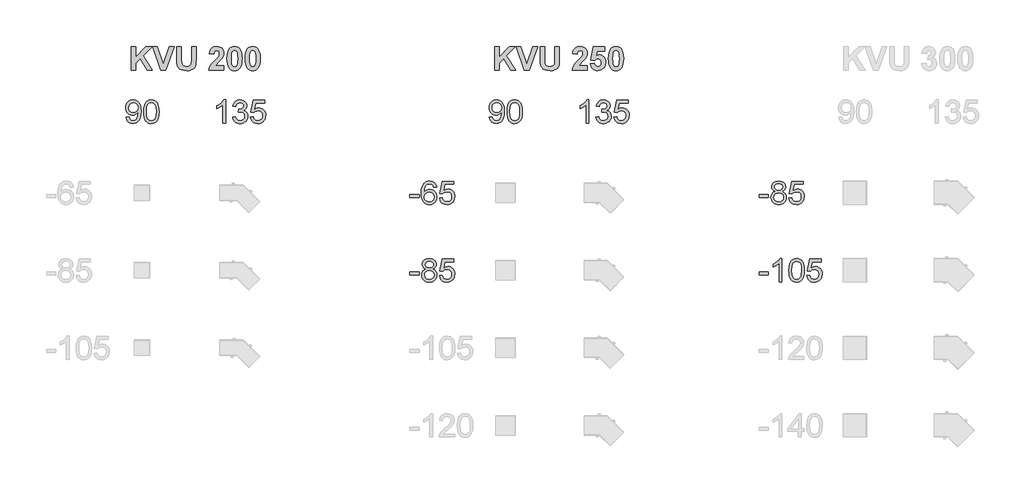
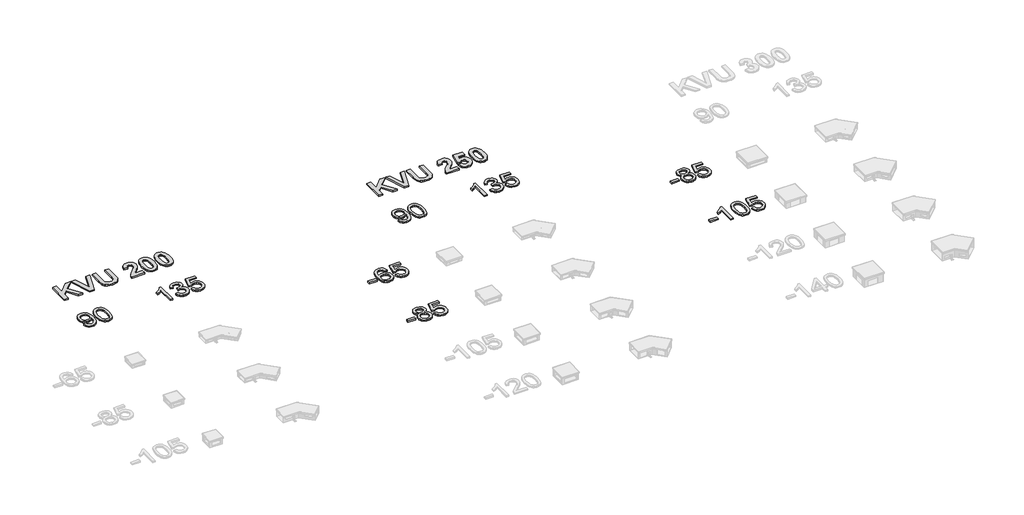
# One storey, part 4 of 6: 10 proxies.
"""IFC4 building model written with IfcOpenShell, lengths in millimetres."""

from ifc_helpers import new_model, si_unit, origin, origin_with_axes, place, context, project, spatial, polyline, outline, extrude, element, save

model = new_model("IFC4")

# Units and contexts
model_context = context("Model", 3, world=origin())
ifc_project = project(units=[si_unit("LENGTHUNIT", "METRE", prefix="MILLI")], contexts=[model_context])

# Site, building, storey
site = spatial("IfcSite", under=ifc_project)
building = spatial("IfcBuilding", under=site)
storey = spatial("IfcBuildingStorey", under=building, Name="Этаж 01", Elevation=0.0)

# Proxies
placement = place(None, origin())
element("IfcBuildingElementProxy", 1, Name="300", ObjectType="300", at=placement, inside=storey, context=model_context, shape_type="SweptSolid", body=[
    extrude(outline(polyline([(1091.5266107, 2189.3511025), (1129.197727, 2194.0599921), (1135.6356619, 2172.6768511), (1146.1202987, 2158.1179211), (1160.3941202, 2149.7578028), (1178.1996087, 2146.9710967), (1194.1748844, 2148.7645214), (1208.6970261, 2154.1447956), (1220.7635556, 2162.523308), (1229.3719943, 2173.3114475), (1241.6960411, 2206.0529451), (1247.1406946, 2249.7573261), (1246.9199654, 2257.114966), (1233.8693516, 2241.1856756), (1216.79043, 2228.5673232), (1196.9156052, 2220.3451606), (1175.477282, 2217.6044398), (1157.5821222, 2219.2783028), (1141.1263007, 2224.2998921), (1126.1098175, 2232.6692075), (1112.5326726, 2244.386249), (1101.2823813, 2258.8394129), (1093.246459, 2275.4170953), (1088.4249056, 2294.1192962), (1086.8177211, 2314.9460157), (1088.5030805, 2336.4671124), (1093.5591587, 2355.7809171), (1101.9859556, 2372.8874299), (1113.7834714, 2387.7866507), (1128.1193729, 2399.8577787), (1144.1613271, 2408.4800129), (1161.9093341, 2413.6533535), (1181.3633939, 2415.3778004), (1209.4603813, 2411.441463), (1235.037377, 2399.632451), (1256.429715, 2380.5393754), (1271.9727293, 2354.7508476), (1281.4364936, 2319.1030822), (1284.5910817, 2270.4322943), (1281.4456907, 2218.8276474), (1272.0095175, 2178.9400421), (1256.3653357, 2148.9668565), (1234.5959186, 2127.1054689), (1207.6393654, 2113.7513525), (1176.4337752, 2109.2999804), (1144.2257065, 2114.5514959), (1118.5291491, 2130.3060423), (1100.5581136, 2155.5703383), (1091.5266107, 2189.3511025)]), holes=[polyline([(1246.9199654, 2315.8289325), (1242.8548694, 2341.3599429), (1230.6595812, 2361.0048415), (1211.7320526, 2373.5312234), (1187.470235, 2377.7066841), (1162.3071065, 2373.2093267), (1142.1471732, 2359.7172545), (1128.9034214, 2339.0698775), (1124.4888374, 2313.1066057), (1128.6642981, 2289.8288725), (1141.19068, 2271.3519992), (1160.8539727, 2259.2946669), (1186.4401654, 2255.2755561), (1210.508845, 2259.2946669), (1229.8870291, 2271.3519992), (1242.6617313, 2290.5094541), (1246.9199654, 2315.8289325)])]), origin_with_axes(), (0.0, 0.0, 1.0), 20.0),
    extrude(outline(polyline([(1317.5533085, 2262.265314), (1320.3216205, 2310.5038406), (1328.6265566, 2348.9751002), (1342.3853432, 2378.2677041), (1361.5152069, 2398.9702634), (1386.1541036, 2411.2759161), (1416.4399888, 2415.3778004), (1439.6533427, 2412.9497792), (1460.4386754, 2405.6657157), (1477.8210997, 2393.8107184), (1490.8257282, 2377.6698959), (1500.6481775, 2357.3812038), (1508.484064, 2333.082598), (1513.6160178, 2302.2264957), (1515.3266691, 2262.265314), (1512.5859482, 2214.3026988), (1504.3637857, 2175.9234097), (1490.6877725, 2146.6032147), (1471.5854999, 2125.817882), (1446.891421, 2113.4294558), (1416.4399888, 2109.2999804), (1395.6914443, 2111.0934051), (1377.2973445, 2116.4736793), (1361.2576895, 2125.4408029), (1347.5724793, 2137.994776), (1334.4390921, 2160.6884966), (1325.0581012, 2188.9648264), (1319.4295067, 2222.8237656), (1317.5533085, 2262.265314)]), holes=[polyline([(1355.2244248, 2262.3388904), (1359.6390087, 2203.082298), (1365.1572387, 2182.8142993), (1372.8827606, 2168.786499), (1392.6012355, 2152.4249473), (1416.4399888, 2146.9710967), (1440.2787421, 2152.4433414), (1459.997217, 2168.8600754), (1467.7227389, 2182.9108683), (1473.2409689, 2203.1742685), (1477.6555528, 2262.3388904), (1473.3881217, 2320.2619105), (1468.0538327, 2340.4632306), (1460.5858282, 2354.824424), (1440.9041415, 2371.986119), (1415.9985304, 2377.7066841), (1392.4172945, 2372.6667007), (1373.4713718, 2357.5467507), (1365.4883325, 2341.9117659), (1359.7861615, 2320.8321276), (1355.2244248, 2262.3388904)])]), origin_with_axes(), (0.0, 0.0, 1.0), 20.0),
])
element("IfcBuildingElementProxy", 2, Name="300", ObjectType="300", at=placement, inside=storey, context=model_context, shape_type="SweptSolid", body=[
    extrude(outline(polyline([(2372.7166136, 2114.0088699), (2335.0454973, 2114.0088699), (2335.0454973, 2348.8647356), (2299.3609437, 2323.4440898), (2259.7032647, 2304.4245906), (2259.7032647, 2340.0355677), (2289.2901741, 2356.130405), (2314.9223521, 2375.2786629), (2335.1282707, 2395.6409313), (2348.4364019, 2415.3778004), (2372.7166136, 2415.3778004), (2372.7166136, 2114.0088699)])), origin_with_axes(), (0.0, 0.0, 1.0), 20.0),
    extrude(outline(polyline([(2462.1855148, 2194.0599921), (2499.8566311, 2198.7688816), (2508.2903259, 2175.0956752), (2520.6419638, 2159.1112025), (2537.5185504, 2150.0061231), (2559.5270907, 2146.9710967), (2585.3524068, 2151.1465573), (2605.2916109, 2163.6729393), (2618.0387221, 2182.3613446), (2622.2877591, 2205.0228755), (2618.0755103, 2226.5347752), (2605.4387637, 2243.9815788), (2586.3089, 2255.5422705), (2562.6172995, 2259.3958344), (2536.2033722, 2255.2755561), (2540.397227, 2292.9466724), (2546.4304917, 2292.505214), (2569.0000521, 2295.2091466), (2589.1783795, 2303.3209446), (2603.4154128, 2317.042943), (2608.1610905, 2336.577477), (2604.7213938, 2352.8470582), (2594.4023039, 2366.0448248), (2578.6569545, 2374.7912192), (2558.9384795, 2377.7066841), (2539.1832164, 2374.7636281), (2523.0331968, 2365.9344602), (2511.2425789, 2351.2191804), (2504.5655207, 2330.6177887), (2466.8944044, 2335.3266782), (2477.9860465, 2369.1534277), (2497.7229155, 2394.4085266), (2524.725454, 2410.1354819), (2557.6141044, 2415.3778004), (2581.2965078, 2412.7934293), (2603.0475308, 2405.0403163), (2621.3864482, 2392.80824), (2634.8325351, 2376.7869791), (2643.0822889, 2358.3285), (2645.8322068, 2338.784769), (2643.2202446, 2320.5746102), (2635.3843581, 2304.0567086), (2622.4349119, 2289.9852223), (2604.4822705, 2279.1143093), (2628.0635064, 2269.5861657), (2645.5379012, 2253.3625697), (2656.3536319, 2231.3264382), (2659.9588754, 2204.3606879), (2658.1562536, 2185.2492183), (2652.7483883, 2167.6460648), (2643.7352794, 2151.5512275), (2631.116927, 2136.9647064), (2615.7440581, 2124.8613888), (2598.4673999, 2116.2161619), (2579.2869524, 2111.0290257), (2558.2027156, 2109.2999804), (2539.1464282, 2110.7761069), (2521.782398, 2115.2044864), (2506.110625, 2122.5851189), (2492.1311092, 2132.9180045), (2480.4094691, 2145.5961377), (2471.5113234, 2160.0125134), (2465.4366719, 2176.1671315), (2462.1855148, 2194.0599921)])), origin_with_axes(), (0.0, 0.0, 1.0), 20.0),
    extrude(outline(polyline([(2692.9211022, 2194.0599921), (2730.5922185, 2198.7688816), (2737.5084, 2176.1533359), (2749.5749294, 2159.9573311), (2766.7366245, 2150.2176553), (2788.9383029, 2146.9710967), (2815.9408414, 2151.4868482), (2836.1743511, 2165.0341026), (2848.8110976, 2186.0493616), (2853.0233465, 2212.9691266), (2849.0778121, 2238.3161961), (2837.2412089, 2257.7035772), (2817.4215664, 2270.00923), (2789.5269141, 2274.1111142), (2771.252376, 2272.4740393), (2756.4543228, 2267.5628147), (2735.301108, 2250.5666665), (2697.6299917, 2255.2755561), (2730.5922185, 2410.6689108), (2876.5677942, 2410.6689108), (2876.5677942, 2372.9977945), (2761.0528477, 2372.9977945), (2744.9396163, 2290.0036164), (2771.8501843, 2306.337577), (2800.0483392, 2311.7822305), (2818.3941544, 2310.0945719), (2835.2454491, 2305.0315959), (2850.6022231, 2296.5933026), (2864.4644765, 2284.7796921), (2875.9400955, 2270.3127326), (2884.1369662, 2253.9143927), (2889.0550887, 2235.5846723), (2890.6944628, 2215.3235714), (2884.7899568, 2177.6524551), (2877.4093242, 2160.858642), (2867.0764387, 2145.4259923), (2851.4230598, 2129.6208621), (2833.1577187, 2118.3314834), (2812.2804155, 2111.5578561), (2788.7911501, 2109.2999804), (2751.7914185, 2115.1033188), (2736.1127477, 2122.3574919), (2722.3148736, 2132.5133343), (2710.8346561, 2145.0650081), (2702.108955, 2159.5066757), (2692.9211022, 2194.0599921)])), origin_with_axes(), (0.0, 0.0, 1.0), 20.0),
])
element("IfcBuildingElementProxy", 3, Name="300", ObjectType="300", at=placement, inside=storey, context=model_context, shape_type="SweptSolid", body=[
    extrude(outline(polyline([(4746.6903592, 1157.6054217), (4746.6903592, 1195.276538), (4864.4125977, 1195.276538), (4864.4125977, 1157.6054217), (4746.6903592, 1157.6054217)])), origin_with_axes(), (0.0, 0.0, 1.0), 20.0),
    extrude(outline(polyline([(5090.4392955, 1289.4543288), (5052.7681792, 1284.7454392), (5046.6981263, 1303.4154505), (5038.4943578, 1316.1625616), (5021.4062391, 1327.9163914), (5000.7496651, 1331.8343346), (4983.2384821, 1329.5534662), (4966.7573687, 1322.7108611), (4952.603109, 1308.299084), (4941.0424173, 1288.4610474), (4933.2341219, 1260.4008482), (4930.3370512, 1221.3225833), (4945.4478042, 1238.9533279), (4963.5567954, 1251.3785423), (4983.6523494, 1258.7453792), (5004.7227906, 1261.2009915), (5022.8225848, 1259.5225299), (5039.5244274, 1254.4871451), (5054.8283184, 1246.0948371), (5068.7342578, 1234.3456059), (5080.290351, 1219.9384273), (5088.5447032, 1203.572277), (5093.4973146, 1185.2471551), (5095.148185, 1164.9630616), (5092.0395822, 1137.9881143), (5082.7137736, 1112.9813357), (5067.9433115, 1091.7729387), (5048.5007481, 1076.1931362), (5025.2690001, 1066.6190072), (4999.1309843, 1063.4276309), (4976.6740878, 1065.5429524), (4956.3922935, 1071.8889168), (4938.2856016, 1082.4655242), (4922.3540119, 1097.2727745), (4909.3654782, 1116.9360671), (4900.0879542, 1142.0808015), (4894.5214397, 1172.7069776), (4892.6659349, 1208.8145954), (4894.7260741, 1249.2954105), (4900.9064916, 1283.8441283), (4911.2071875, 1312.460749), (4925.6281617, 1335.1452726), (4941.2585479, 1350.1778506), (4959.3813347, 1360.9154063), (4979.996522, 1367.3579398), (5003.1041099, 1369.5054509), (5036.1583071, 1364.1895561), (5062.6274167, 1348.2418716), (5081.1686692, 1322.9131962), (5090.4392955, 1289.4543288)]), holes=[polyline([(4930.3370512, 1165.5516728), (4932.516752, 1148.8590273), (4939.0558545, 1132.9205398), (4949.2093976, 1119.2169355), (4962.2324202, 1109.2289393), (4977.9501784, 1103.1312953), (4996.1879283, 1101.0987472), (5021.0475542, 1105.3109961), (5040.5912852, 1117.9477426), (5053.2556228, 1137.8133704), (5057.4770687, 1163.7122628), (5053.3108051, 1188.5718886), (5040.8120144, 1207.5270084), (5020.9371896, 1219.5291585), (4994.642824, 1223.5298752), (4969.8199863, 1219.5291585), (4949.0622448, 1207.5270084), (4935.0183496, 1189.0317411), (4930.3370512, 1165.5516728)])]), origin_with_axes(), (0.0, 0.0, 1.0), 20.0),
    extrude(outline(polyline([(5128.1104118, 1148.1876426), (5165.7815281, 1152.8965322), (5172.6977096, 1130.2809865), (5184.7642391, 1114.0849817), (5201.9259341, 1104.3453059), (5224.1276126, 1101.0987472), (5251.130151, 1105.6144987), (5271.3636607, 1119.1617532), (5284.0004073, 1140.1770122), (5288.2126561, 1167.0967772), (5284.2671217, 1192.4438466), (5272.4305185, 1211.8312278), (5252.610876, 1224.1368805), (5224.7162237, 1228.2387648), (5206.4416856, 1226.6016899), (5191.6436324, 1221.6904653), (5170.4904177, 1204.6943171), (5132.8193014, 1209.4032066), (5165.7815281, 1364.7965614), (5311.7571038, 1364.7965614), (5311.7571038, 1327.1254451), (5196.2421573, 1327.1254451), (5180.1289259, 1244.131267), (5207.0394939, 1260.4652276), (5235.2376488, 1265.9098811), (5253.5834641, 1264.2222224), (5270.4347587, 1259.1592465), (5285.7915327, 1250.7209532), (5299.6537862, 1238.9073426), (5311.1294052, 1224.4403832), (5319.3262759, 1208.0420432), (5324.2443983, 1189.7123228), (5325.8837724, 1169.4512219), (5319.9792664, 1131.7801056), (5312.5986339, 1114.9862926), (5302.2657483, 1099.5536429), (5286.6123694, 1083.7485126), (5268.3470284, 1072.4591339), (5247.4697252, 1065.6855067), (5223.9804598, 1063.4276309), (5186.9807281, 1069.2309694), (5171.3020573, 1076.4851425), (5157.5041832, 1086.6409848), (5146.0239657, 1099.1926587), (5137.2982646, 1113.6343262), (5128.1104118, 1148.1876426)])), origin_with_axes(), (0.0, 0.0, 1.0), 20.0),
])
element("IfcBuildingElementProxy", 4, Name="300", ObjectType="300", at=placement, inside=storey, context=model_context, shape_type="SweptSolid", body=[
    extrude(outline(polyline([(5771.5266107, 2189.3511025), (5809.197727, 2194.0599921), (5815.6356619, 2172.6768511), (5826.1202987, 2158.1179211), (5840.3941202, 2149.7578028), (5858.1996087, 2146.9710967), (5874.1748844, 2148.7645214), (5888.6970261, 2154.1447956), (5900.7635556, 2162.523308), (5909.3719943, 2173.3114475), (5921.6960411, 2206.0529451), (5927.1406946, 2249.7573261), (5926.9199654, 2257.114966), (5913.8693516, 2241.1856756), (5896.79043, 2228.5673232), (5876.9156052, 2220.3451606), (5855.477282, 2217.6044398), (5837.5821222, 2219.2783028), (5821.1263007, 2224.2998921), (5806.1098175, 2232.6692075), (5792.5326726, 2244.386249), (5781.2823813, 2258.8394129), (5773.246459, 2275.4170953), (5768.4249056, 2294.1192962), (5766.8177211, 2314.9460157), (5768.5030805, 2336.4671124), (5773.5591587, 2355.7809171), (5781.9859556, 2372.8874299), (5793.7834714, 2387.7866507), (5808.1193729, 2399.8577787), (5824.1613271, 2408.4800129), (5841.9093341, 2413.6533535), (5861.3633939, 2415.3778004), (5889.4603813, 2411.441463), (5915.037377, 2399.632451), (5936.429715, 2380.5393754), (5951.9727293, 2354.7508476), (5961.4364936, 2319.1030822), (5964.5910817, 2270.4322943), (5961.4456907, 2218.8276474), (5952.0095175, 2178.9400421), (5936.3653357, 2148.9668565), (5914.5959186, 2127.1054689), (5887.6393654, 2113.7513525), (5856.4337752, 2109.2999804), (5824.2257065, 2114.5514959), (5798.5291491, 2130.3060423), (5780.5581136, 2155.5703383), (5771.5266107, 2189.3511025)]), holes=[polyline([(5926.9199654, 2315.8289325), (5922.8548694, 2341.3599429), (5910.6595812, 2361.0048415), (5891.7320526, 2373.5312234), (5867.470235, 2377.7066841), (5842.3071065, 2373.2093267), (5822.1471732, 2359.7172545), (5808.9034214, 2339.0698775), (5804.4888374, 2313.1066057), (5808.6642981, 2289.8288725), (5821.19068, 2271.3519992), (5840.8539727, 2259.2946669), (5866.4401654, 2255.2755561), (5890.508845, 2259.2946669), (5909.8870291, 2271.3519992), (5922.6617313, 2290.5094541), (5926.9199654, 2315.8289325)])]), origin_with_axes(), (0.0, 0.0, 1.0), 20.0),
    extrude(outline(polyline([(5997.5533085, 2262.265314), (6000.3216205, 2310.5038406), (6008.6265566, 2348.9751002), (6022.3853432, 2378.2677041), (6041.5152069, 2398.9702634), (6066.1541036, 2411.2759161), (6096.4399888, 2415.3778004), (6119.6533427, 2412.9497792), (6140.4386754, 2405.6657157), (6157.8210997, 2393.8107184), (6170.8257282, 2377.6698959), (6180.6481775, 2357.3812038), (6188.484064, 2333.082598), (6193.6160178, 2302.2264957), (6195.3266691, 2262.265314), (6192.5859482, 2214.3026988), (6184.3637857, 2175.9234097), (6170.6877725, 2146.6032147), (6151.5854999, 2125.817882), (6126.891421, 2113.4294558), (6096.4399888, 2109.2999804), (6075.6914443, 2111.0934051), (6057.2973445, 2116.4736793), (6041.2576895, 2125.4408029), (6027.5724793, 2137.994776), (6014.4390921, 2160.6884966), (6005.0581012, 2188.9648264), (5999.4295067, 2222.8237656), (5997.5533085, 2262.265314)]), holes=[polyline([(6035.2244248, 2262.3388904), (6039.6390087, 2203.082298), (6045.1572387, 2182.8142993), (6052.8827606, 2168.786499), (6072.6012355, 2152.4249473), (6096.4399888, 2146.9710967), (6120.2787421, 2152.4433414), (6139.997217, 2168.8600754), (6147.7227389, 2182.9108683), (6153.2409689, 2203.1742685), (6157.6555528, 2262.3388904), (6153.3881217, 2320.2619105), (6148.0538327, 2340.4632306), (6140.5858282, 2354.824424), (6120.9041415, 2371.986119), (6095.9985304, 2377.7066841), (6072.4172945, 2372.6667007), (6053.4713718, 2357.5467507), (6045.4883325, 2341.9117659), (6039.7861615, 2320.8321276), (6035.2244248, 2262.3388904)])]), origin_with_axes(), (0.0, 0.0, 1.0), 20.0),
])
element("IfcBuildingElementProxy", 5, Name="300", ObjectType="300", at=placement, inside=storey, context=model_context, shape_type="SweptSolid", body=[
    extrude(outline(polyline([(7052.7166136, 2114.0088699), (7015.0454973, 2114.0088699), (7015.0454973, 2348.8647356), (6979.3609437, 2323.4440898), (6939.7032647, 2304.4245906), (6939.7032647, 2340.0355677), (6969.2901741, 2356.130405), (6994.9223521, 2375.2786629), (7015.1282707, 2395.6409313), (7028.4364019, 2415.3778004), (7052.7166136, 2415.3778004), (7052.7166136, 2114.0088699)])), origin_with_axes(), (0.0, 0.0, 1.0), 20.0),
    extrude(outline(polyline([(7142.1855148, 2194.0599921), (7179.8566311, 2198.7688816), (7188.2903259, 2175.0956752), (7200.6419638, 2159.1112025), (7217.5185504, 2150.0061231), (7239.5270907, 2146.9710967), (7265.3524068, 2151.1465573), (7285.2916109, 2163.6729393), (7298.0387221, 2182.3613446), (7302.2877591, 2205.0228755), (7298.0755103, 2226.5347752), (7285.4387637, 2243.9815788), (7266.3089, 2255.5422705), (7242.6172995, 2259.3958344), (7216.2033722, 2255.2755561), (7220.397227, 2292.9466724), (7226.4304917, 2292.505214), (7249.0000521, 2295.2091466), (7269.1783795, 2303.3209446), (7283.4154128, 2317.042943), (7288.1610905, 2336.577477), (7284.7213938, 2352.8470582), (7274.4023039, 2366.0448248), (7258.6569545, 2374.7912192), (7238.9384795, 2377.7066841), (7219.1832164, 2374.7636281), (7203.0331968, 2365.9344602), (7191.2425789, 2351.2191804), (7184.5655207, 2330.6177887), (7146.8944044, 2335.3266782), (7157.9860465, 2369.1534277), (7177.7229155, 2394.4085266), (7204.725454, 2410.1354819), (7237.6141044, 2415.3778004), (7261.2965078, 2412.7934293), (7283.0475308, 2405.0403163), (7301.3864482, 2392.80824), (7314.8325351, 2376.7869791), (7323.0822889, 2358.3285), (7325.8322068, 2338.784769), (7323.2202446, 2320.5746102), (7315.3843581, 2304.0567086), (7302.4349119, 2289.9852223), (7284.4822705, 2279.1143093), (7308.0635064, 2269.5861657), (7325.5379012, 2253.3625697), (7336.3536319, 2231.3264382), (7339.9588754, 2204.3606879), (7338.1562536, 2185.2492183), (7332.7483883, 2167.6460648), (7323.7352794, 2151.5512275), (7311.116927, 2136.9647064), (7295.7440581, 2124.8613888), (7278.4673999, 2116.2161619), (7259.2869524, 2111.0290257), (7238.2027156, 2109.2999804), (7219.1464282, 2110.7761069), (7201.782398, 2115.2044864), (7186.110625, 2122.5851189), (7172.1311092, 2132.9180045), (7160.4094691, 2145.5961377), (7151.5113234, 2160.0125134), (7145.4366719, 2176.1671315), (7142.1855148, 2194.0599921)])), origin_with_axes(), (0.0, 0.0, 1.0), 20.0),
    extrude(outline(polyline([(7372.9211022, 2194.0599921), (7410.5922185, 2198.7688816), (7417.5084, 2176.1533359), (7429.5749294, 2159.9573311), (7446.7366245, 2150.2176553), (7468.9383029, 2146.9710967), (7495.9408414, 2151.4868482), (7516.1743511, 2165.0341026), (7528.8110976, 2186.0493616), (7533.0233465, 2212.9691266), (7529.0778121, 2238.3161961), (7517.2412089, 2257.7035772), (7497.4215664, 2270.00923), (7469.5269141, 2274.1111142), (7451.252376, 2272.4740393), (7436.4543228, 2267.5628147), (7415.301108, 2250.5666665), (7377.6299917, 2255.2755561), (7410.5922185, 2410.6689108), (7556.5677942, 2410.6689108), (7556.5677942, 2372.9977945), (7441.0528477, 2372.9977945), (7424.9396163, 2290.0036164), (7451.8501843, 2306.337577), (7480.0483392, 2311.7822305), (7498.3941544, 2310.0945719), (7515.2454491, 2305.0315959), (7530.6022231, 2296.5933026), (7544.4644765, 2284.7796921), (7555.9400955, 2270.3127326), (7564.1369662, 2253.9143927), (7569.0550887, 2235.5846723), (7570.6944628, 2215.3235714), (7564.7899568, 2177.6524551), (7557.4093242, 2160.858642), (7547.0764387, 2145.4259923), (7531.4230598, 2129.6208621), (7513.1577187, 2118.3314834), (7492.2804155, 2111.5578561), (7468.7911501, 2109.2999804), (7431.7914185, 2115.1033188), (7416.1127477, 2122.3574919), (7402.3148736, 2132.5133343), (7390.8346561, 2145.0650081), (7382.108955, 2159.5066757), (7372.9211022, 2194.0599921)])), origin_with_axes(), (0.0, 0.0, 1.0), 20.0),
])
element("IfcBuildingElementProxy", 6, Name="300", ObjectType="300", at=placement, inside=storey, context=model_context, shape_type="SweptSolid", body=[
    extrude(outline(polyline([(4746.6903592, 157.6054217), (4746.6903592, 195.276538), (4864.4125977, 195.276538), (4864.4125977, 157.6054217), (4746.6903592, 157.6054217)])), origin_with_axes(), (0.0, 0.0, 1.0), 20.0),
    extrude(outline(polyline([(4952.2628181, 234.1248767), (4932.0936877, 244.0576906), (4917.939428, 257.5221716), (4909.5793096, 274.2424083), (4906.7926035, 293.9424891), (4908.3101167, 309.3061609), (4912.8626564, 323.3914428), (4920.4502226, 336.1983348), (4931.0728152, 347.7268368), (4944.219998, 357.2549805), (4959.3813347, 364.0607974), (4995.74647, 369.5054509), (5032.3323344, 363.9320387), (5047.659218, 356.9652734), (5061.0087359, 347.211802), (5071.8244666, 335.4579723), (5079.5499885, 322.4901319), (5084.1853016, 308.308281), (5085.730406, 292.9124195), (5082.9804881, 273.8469351), (5074.7307343, 257.411807), (5060.8891742, 244.0300994), (5041.3638374, 234.1248767), (5064.5496001, 222.1779089), (5081.4261866, 204.5839525), (5091.7176854, 182.189136), (5095.148185, 155.8395881), (5093.4467308, 137.0500152), (5088.3423681, 119.8239408), (5079.835097, 104.1613649), (5067.9249174, 90.0622874), (5053.2372287, 78.4096252), (5036.3974304, 70.0862951), (5017.4055224, 65.092297), (4996.2615047, 63.4276309), (4975.1174871, 65.0991948), (4956.1255791, 70.1138862), (4939.2857807, 78.4717053), (4924.5980921, 90.172652), (4912.6879125, 104.3705977), (4904.1806414, 120.2194139), (4899.0762787, 137.7191006), (4897.3748244, 156.8696577), (4900.9432798, 184.2400782), (4911.6486459, 206.7544563), (4928.9390996, 223.6402398), (4952.2628181, 234.1248767)]), holes=[polyline([(4944.4637198, 292.8388431), (4947.8022489, 276.3945179), (4957.8178362, 263.2611307), (4974.2161762, 254.652692), (4996.7029631, 251.7832125), (5018.6655183, 254.6342979), (5034.8155378, 263.1875543), (5044.7483517, 275.8794832), (5048.0592897, 291.146586), (5044.6379871, 306.9931029), (5034.3740794, 320.098899), (5018.0033307, 328.9004757), (4996.2615047, 331.8343346), (4974.3817231, 328.9648551), (4958.0385654, 320.3564164), (4947.8574312, 307.7380639), (4944.4637198, 292.8388431)]), polyline([(4935.0459407, 158.1940329), (4941.3367229, 129.8303311), (4950.0463291, 117.6626341), (4963.5935836, 108.6035399), (4979.8171796, 102.9749454), (4996.5558103, 101.0987472), (5022.1971854, 105.0442816), (5041.4374138, 116.8808848), (5053.467155, 134.8059351), (5057.4770687, 157.0168105), (5053.3383963, 179.604765), (5040.922379, 197.9252884), (5021.2406922, 210.0653942), (4995.3050116, 214.1120962), (4970.0223214, 210.1205765), (4950.9752311, 198.1460176), (4939.0282633, 180.1749821), (4935.0459407, 158.1940329)])]), origin_with_axes(), (0.0, 0.0, 1.0), 20.0),
    extrude(outline(polyline([(5128.1104118, 148.1876426), (5165.7815281, 152.8965322), (5172.6977096, 130.2809865), (5184.7642391, 114.0849817), (5201.9259341, 104.3453059), (5224.1276126, 101.0987472), (5251.130151, 105.6144987), (5271.3636607, 119.1617532), (5284.0004073, 140.1770122), (5288.2126561, 167.0967772), (5284.2671217, 192.4438466), (5272.4305185, 211.8312278), (5252.610876, 224.1368805), (5224.7162237, 228.2387648), (5206.4416856, 226.6016899), (5191.6436324, 221.6904653), (5170.4904177, 204.6943171), (5132.8193014, 209.4032066), (5165.7815281, 364.7965614), (5311.7571038, 364.7965614), (5311.7571038, 327.1254451), (5196.2421573, 327.1254451), (5180.1289259, 244.131267), (5207.0394939, 260.4652276), (5235.2376488, 265.9098811), (5253.5834641, 264.2222224), (5270.4347587, 259.1592465), (5285.7915327, 250.7209532), (5299.6537862, 238.9073426), (5311.1294052, 224.4403832), (5319.3262759, 208.0420432), (5324.2443983, 189.7123228), (5325.8837724, 169.4512219), (5319.9792664, 131.7801056), (5312.5986339, 114.9862926), (5302.2657483, 99.5536429), (5286.6123694, 83.7485126), (5268.3470284, 72.4591339), (5247.4697252, 65.6855067), (5223.9804598, 63.4276309), (5186.9807281, 69.2309694), (5171.3020573, 76.4851425), (5157.5041832, 86.6409848), (5146.0239657, 99.1926587), (5137.2982646, 113.6343262), (5128.1104118, 148.1876426)])), origin_with_axes(), (0.0, 0.0, 1.0), 20.0),
])
element("IfcBuildingElementProxy", 7, Name="300", ObjectType="300", at=placement, inside=storey, context=model_context, shape_type="SweptSolid", body=[
    extrude(outline(polyline([(9246.6903592, 1157.6054217), (9246.6903592, 1195.276538), (9364.4125977, 1195.276538), (9364.4125977, 1157.6054217), (9246.6903592, 1157.6054217)])), origin_with_axes(), (0.0, 0.0, 1.0), 20.0),
    extrude(outline(polyline([(9452.2628181, 1234.1248767), (9432.0936877, 1244.0576906), (9417.939428, 1257.5221716), (9409.5793096, 1274.2424083), (9406.7926035, 1293.9424891), (9408.3101167, 1309.3061609), (9412.8626564, 1323.3914428), (9420.4502226, 1336.1983348), (9431.0728152, 1347.7268368), (9444.219998, 1357.2549805), (9459.3813347, 1364.0607974), (9495.74647, 1369.5054509), (9532.3323344, 1363.9320387), (9547.659218, 1356.9652734), (9561.0087359, 1347.211802), (9571.8244666, 1335.4579723), (9579.5499885, 1322.4901319), (9584.1853016, 1308.308281), (9585.730406, 1292.9124195), (9582.9804881, 1273.8469351), (9574.7307343, 1257.411807), (9560.8891742, 1244.0300994), (9541.3638374, 1234.1248767), (9564.5496001, 1222.1779089), (9581.4261866, 1204.5839525), (9591.7176854, 1182.189136), (9595.148185, 1155.8395881), (9593.4467308, 1137.0500152), (9588.3423681, 1119.8239408), (9579.835097, 1104.1613649), (9567.9249174, 1090.0622874), (9553.2372287, 1078.4096252), (9536.3974304, 1070.0862951), (9517.4055224, 1065.092297), (9496.2615047, 1063.4276309), (9475.1174871, 1065.0991948), (9456.1255791, 1070.1138862), (9439.2857807, 1078.4717053), (9424.5980921, 1090.172652), (9412.6879125, 1104.3705977), (9404.1806414, 1120.2194139), (9399.0762787, 1137.7191006), (9397.3748244, 1156.8696577), (9400.9432798, 1184.2400782), (9411.6486459, 1206.7544563), (9428.9390996, 1223.6402398), (9452.2628181, 1234.1248767)]), holes=[polyline([(9444.4637198, 1292.8388431), (9447.8022489, 1276.3945179), (9457.8178362, 1263.2611307), (9474.2161762, 1254.652692), (9496.7029631, 1251.7832125), (9518.6655183, 1254.6342979), (9534.8155378, 1263.1875543), (9544.7483517, 1275.8794832), (9548.0592897, 1291.146586), (9544.6379871, 1306.9931029), (9534.3740794, 1320.098899), (9518.0033307, 1328.9004757), (9496.2615047, 1331.8343346), (9474.3817231, 1328.9648551), (9458.0385654, 1320.3564164), (9447.8574312, 1307.7380639), (9444.4637198, 1292.8388431)]), polyline([(9435.0459407, 1158.1940329), (9441.3367229, 1129.8303311), (9450.0463291, 1117.6626341), (9463.5935836, 1108.6035399), (9479.8171796, 1102.9749454), (9496.5558103, 1101.0987472), (9522.1971854, 1105.0442816), (9541.4374138, 1116.8808848), (9553.467155, 1134.8059351), (9557.4770687, 1157.0168105), (9553.3383963, 1179.604765), (9540.922379, 1197.9252884), (9521.2406922, 1210.0653942), (9495.3050116, 1214.1120962), (9470.0223214, 1210.1205765), (9450.9752311, 1198.1460176), (9439.0282633, 1180.1749821), (9435.0459407, 1158.1940329)])]), origin_with_axes(), (0.0, 0.0, 1.0), 20.0),
    extrude(outline(polyline([(9628.1104118, 1148.1876426), (9665.7815281, 1152.8965322), (9672.6977096, 1130.2809865), (9684.7642391, 1114.0849817), (9701.9259341, 1104.3453059), (9724.1276126, 1101.0987472), (9751.130151, 1105.6144987), (9771.3636607, 1119.1617532), (9784.0004073, 1140.1770122), (9788.2126561, 1167.0967772), (9784.2671217, 1192.4438466), (9772.4305185, 1211.8312278), (9752.610876, 1224.1368805), (9724.7162237, 1228.2387648), (9706.4416856, 1226.6016899), (9691.6436324, 1221.6904653), (9670.4904177, 1204.6943171), (9632.8193014, 1209.4032066), (9665.7815281, 1364.7965614), (9811.7571038, 1364.7965614), (9811.7571038, 1327.1254451), (9696.2421573, 1327.1254451), (9680.1289259, 1244.131267), (9707.0394939, 1260.4652276), (9735.2376488, 1265.9098811), (9753.5834641, 1264.2222224), (9770.4347587, 1259.1592465), (9785.7915327, 1250.7209532), (9799.6537862, 1238.9073426), (9811.1294052, 1224.4403832), (9819.3262759, 1208.0420432), (9824.2443983, 1189.7123228), (9825.8837724, 1169.4512219), (9819.9792664, 1131.7801056), (9812.5986339, 1114.9862926), (9802.2657483, 1099.5536429), (9786.6123694, 1083.7485126), (9768.3470284, 1072.4591339), (9747.4697252, 1065.6855067), (9723.9804598, 1063.4276309), (9686.9807281, 1069.2309694), (9671.3020573, 1076.4851425), (9657.5041832, 1086.6409848), (9646.0239657, 1099.1926587), (9637.2982646, 1113.6343262), (9628.1104118, 1148.1876426)])), origin_with_axes(), (0.0, 0.0, 1.0), 20.0),
])
element("IfcBuildingElementProxy", 8, Name="300", ObjectType="300", at=placement, inside=storey, context=model_context, shape_type="SweptSolid", body=[
    extrude(outline(polyline([(9246.6903592, 157.6054217), (9246.6903592, 195.276538), (9364.4125977, 195.276538), (9364.4125977, 157.6054217), (9246.6903592, 157.6054217)])), origin_with_axes(), (0.0, 0.0, 1.0), 20.0),
    extrude(outline(polyline([(9538.6415106, 68.1365205), (9500.9703943, 68.1365205), (9500.9703943, 302.9923862), (9465.2858408, 277.5717403), (9425.6281617, 258.5522412), (9425.6281617, 294.1632183), (9455.2150711, 310.2580556), (9480.8472491, 329.4063135), (9501.0531677, 349.7685819), (9514.3612989, 369.5054509), (9538.6415106, 369.5054509), (9538.6415106, 68.1365205)])), origin_with_axes(), (0.0, 0.0, 1.0), 20.0),
    extrude(outline(polyline([(9628.1104118, 216.3929645), (9630.8787238, 264.6314911), (9639.1836599, 303.1027508), (9652.9424465, 332.3953547), (9672.0723102, 353.0979139), (9696.7112069, 365.4035667), (9726.9970921, 369.5054509), (9750.210446, 367.0774298), (9770.9957787, 359.7933663), (9788.378203, 347.938369), (9801.3828315, 331.7975464), (9811.2052808, 311.5088544), (9819.0411673, 287.2102486), (9824.1731211, 256.3541463), (9825.8837724, 216.3929645), (9823.1430516, 168.4303494), (9814.920889, 130.0510603), (9801.2448758, 100.7308652), (9782.1426032, 79.9455325), (9757.4485243, 67.5571063), (9726.9970921, 63.4276309), (9706.2485476, 65.2210557), (9687.8544478, 70.6013298), (9671.8147928, 79.5684535), (9658.1295826, 92.1224266), (9644.9961954, 114.8161471), (9635.6152045, 143.092477), (9629.98661, 176.9514161), (9628.1104118, 216.3929645)]), holes=[polyline([(9665.7815281, 216.4665409), (9670.1961121, 157.2099486), (9675.714342, 136.9419499), (9683.4398639, 122.9141496), (9703.1583388, 106.5525978), (9726.9970921, 101.0987472), (9750.8358454, 106.5709919), (9770.5543203, 122.987726), (9778.2798422, 137.0385189), (9783.7980722, 157.3019191), (9788.2126561, 216.4665409), (9783.945225, 274.3895611), (9778.610936, 294.5908811), (9771.1429315, 308.9520745), (9751.4612448, 326.1137696), (9726.5556337, 331.8343346), (9702.9743978, 326.7943513), (9684.0284751, 311.6744013), (9676.0454358, 296.0394165), (9670.3432649, 274.9597782), (9665.7815281, 216.4665409)])]), origin_with_axes(), (0.0, 0.0, 1.0), 20.0),
    extrude(outline(polyline([(9858.8459992, 148.1876426), (9896.5171155, 152.8965322), (9903.433297, 130.2809865), (9915.4998264, 114.0849817), (9932.6615215, 104.3453059), (9954.8631999, 101.0987472), (9981.8657384, 105.6144987), (10002.0992481, 119.1617532), (10014.7359946, 140.1770122), (10018.9482435, 167.0967772), (10015.0027091, 192.4438466), (10003.1661059, 211.8312278), (9983.3464634, 224.1368805), (9955.4518111, 228.2387648), (9937.177273, 226.6016899), (9922.3792198, 221.6904653), (9901.226005, 204.6943171), (9863.5548887, 209.4032066), (9896.5171155, 364.7965614), (10042.4926912, 364.7965614), (10042.4926912, 327.1254451), (9926.9777447, 327.1254451), (9910.8645133, 244.131267), (9937.7750813, 260.4652276), (9965.9732362, 265.9098811), (9984.3190514, 264.2222224), (10001.1703461, 259.1592465), (10016.5271201, 250.7209532), (10030.3893735, 238.9073426), (10041.8649925, 224.4403832), (10050.0618632, 208.0420432), (10054.9799857, 189.7123228), (10056.6193598, 169.4512219), (10050.7148538, 131.7801056), (10043.3342212, 114.9862926), (10033.0013357, 99.5536429), (10017.3479568, 83.7485126), (9999.0826158, 72.4591339), (9978.2053125, 65.6855067), (9954.7160471, 63.4276309), (9917.7163155, 69.2309694), (9902.0376447, 76.4851425), (9888.2397706, 86.6409848), (9876.7595531, 99.1926587), (9868.033852, 113.6343262), (9858.8459992, 148.1876426)])), origin_with_axes(), (0.0, 0.0, 1.0), 20.0),
])
element("IfcBuildingElementProxy", 9, Name="300_", ObjectType="300_", at=placement, inside=storey, context=model_context, shape_type="SweptSolid", body=[
    extrude(outline(polyline([(1156.673179, 2797.023962), (1156.673179, 3103.101782), (1214.9737162, 3103.101782), (1214.9737162, 2963.5752361), (1346.3017491, 3103.101782), (1426.3131633, 3103.101782), (1310.4712106, 2986.1970591), (1431.1715414, 2797.023962), (1363.0024238, 2797.023962), (1272.5910439, 2947.8614194), (1214.9737162, 2889.6367945), (1214.9737162, 2797.023962), (1156.673179, 2797.023962)])), origin_with_axes(), (0.0, 0.0, 1.0), 20.0),
    extrude(outline(polyline([(1536.7653528, 2797.023962), (1433.6007305, 3103.101782), (1495.0895782, 3103.101782), (1572.0645062, 2874.7580115), (1649.2671706, 3103.101782), (1710.5282819, 3103.101782), (1601.8979842, 2797.023962), (1536.7653528, 2797.023962)])), origin_with_axes(), (0.0, 0.0, 1.0), 20.0),
    extrude(outline(polyline([(1744.5369285, 3103.101782), (1802.8374657, 3103.101782), (1802.8374657, 2937.9928389), (1805.3425669, 2886.9798689), (1812.6491121, 2870.1368589), (1825.9147616, 2856.9566106), (1845.1395156, 2848.4449599), (1870.3233739, 2845.607743), (1895.4787652, 2848.2836465), (1913.5553477, 2856.3113572), (1925.1983749, 2868.239055), (1931.0531001, 2882.6149199), (1934.0136743, 2934.4249675), (1934.0136743, 3103.101782), (1992.3142114, 3103.101782), (1992.3142114, 2942.5475684), (1991.0426828, 2895.5389647), (1987.2280968, 2864.7376067), (1979.9974638, 2843.7953402), (1968.4777939, 2826.364011), (1952.5077737, 2812.2917948), (1931.9260899, 2801.4268672), (1905.5371261, 2794.4809047), (1872.1452657, 2792.1655839), (1833.0315264, 2794.6896632), (1804.6593575, 2802.2619009), (1784.0681847, 2813.876461), (1768.2974339, 2828.5275075), (1757.2142589, 2845.0953359), (1750.6858133, 2862.460242), (1746.0741497, 2894.9886016), (1744.5369285, 2940.0424672), (1744.5369285, 3103.101782)])), origin_with_axes(), (0.0, 0.0, 1.0), 20.0),
    extrude(outline(polyline([(2351.8341904, 2855.3244992), (2351.8341904, 2797.023962), (2157.4990666, 2797.023962), (2163.7048855, 2826.4304341), (2176.0975453, 2854.2237729), (2199.1179071, 2885.6419172), (2237.2068322, 2925.9228059), (2282.2986539, 2974.8102354), (2290.7249035, 2992.4598121), (2293.5336533, 3009.8816523), (2291.1708874, 3026.8575086), (2284.0825896, 3039.3735256), (2272.8381013, 3047.0880986), (2258.0067635, 3049.659623), (2243.2798049, 3047.1260547), (2231.8929812, 3039.5253499), (2224.2258533, 3026.0604309), (2220.6579819, 3005.9342201), (2162.3574447, 3011.2480712), (2166.1910087, 3034.0715358), (2172.6814982, 3053.4267638), (2181.8289132, 3069.3137551), (2193.6332537, 3081.7325096), (2223.1820611, 3097.7594639), (2259.2972701, 3103.101782), (2279.7366186, 3101.6048892), (2297.8606463, 3097.1142106), (2313.6693531, 3089.6297463), (2327.1627392, 3079.1514962), (2337.9564991, 3066.4480711), (2345.6663276, 3052.2880814), (2350.2922247, 3036.6715272), (2351.8341904, 3019.5984085), (2350.1451449, 2999.8232914), (2345.0780084, 2981.0350324), (2323.6707799, 2942.6993927), (2287.4227246, 2904.4396652), (2254.1352434, 2871.2660523), (2243.2038927, 2855.3244992), (2351.8341904, 2855.3244992)])), origin_with_axes(), (0.0, 0.0, 1.0), 20.0),
    extrude(outline(polyline([(2487.8687771, 3103.101782), (2508.4267383, 3101.1280659), (2526.6029556, 3095.2069176), (2542.3974289, 3085.3383371), (2555.8101583, 3071.5223244), (2568.5966123, 3049.7687467), (2577.7297938, 3021.8567952), (2583.2097027, 2987.7864699), (2585.036339, 2947.5577708), (2583.2002137, 2907.3670278), (2577.6918377, 2873.2587464), (2568.5112112, 2845.2329267), (2555.6583339, 2823.2895686), (2542.3120277, 2809.6728253), (2526.5649995, 2799.9465801), (2508.4172493, 2794.110833), (2487.8687771, 2792.1655839), (2467.0996852, 2794.3006134), (2448.4419002, 2800.7057017), (2431.895422, 2811.3808489), (2417.4602508, 2826.3260549), (2405.7531727, 2846.7511699), (2397.3909741, 2873.8660437), (2392.3736549, 2907.6706764), (2390.7012152, 2948.1650681), (2392.5373405, 2988.1565417), (2398.0457164, 3022.1224878), (2407.226343, 3050.0629063), (2420.0792202, 3071.9777973), (2433.4255265, 3085.5945406), (2449.1725547, 3095.3207858), (2467.3203049, 3101.156533), (2487.8687771, 3103.101782)]), holes=[polyline([(2487.8687771, 3049.659623), (2477.5826797, 3048.0559786), (2468.4352647, 3043.2450456), (2460.8440489, 3034.277922), (2455.2265493, 3020.2057058), (2450.5579516, 2991.2262396), (2449.0017523, 2947.5577708), (2450.3871492, 2904.4681323), (2454.5433398, 2877.376981), (2460.8155819, 2861.4733839), (2468.5491329, 2851.9464081), (2477.6111468, 2847.1924093), (2487.8687771, 2845.607743), (2498.1548745, 2847.2113873), (2507.3022895, 2852.0223203), (2514.8935052, 2860.9894439), (2520.5110049, 2875.0616602), (2525.1796026, 2903.8893021), (2526.7358018, 2947.5577708), (2525.350405, 2990.5999643), (2521.1942143, 3017.7006046), (2514.9219723, 3033.6516467), (2507.1884212, 3043.2450456), (2498.1264074, 3048.0559786), (2487.8687771, 3049.659623)])]), origin_with_axes(), (0.0, 0.0, 1.0), 20.0),
    extrude(outline(polyline([(2721.0709257, 3103.101782), (2741.6288869, 3101.1280659), (2759.8051041, 3095.2069176), (2775.5995775, 3085.3383371), (2789.0123068, 3071.5223244), (2801.7987609, 3049.7687467), (2810.9319424, 3021.8567952), (2816.4118513, 2987.7864699), (2818.2384876, 2947.5577708), (2816.4023622, 2907.3670278), (2810.8939863, 2873.2587464), (2801.7133597, 2845.2329267), (2788.8604825, 2823.2895686), (2775.5141763, 2809.6728253), (2759.7671481, 2799.9465801), (2741.6193978, 2794.110833), (2721.0709257, 2792.1655839), (2700.3018337, 2794.3006134), (2681.6440487, 2800.7057017), (2665.0975706, 2811.3808489), (2650.6623994, 2826.3260549), (2638.9553213, 2846.7511699), (2630.5931227, 2873.8660437), (2625.5758035, 2907.6706764), (2623.9033637, 2948.1650681), (2625.7394891, 2988.1565417), (2631.247865, 3022.1224878), (2640.4284916, 3050.0629063), (2653.2813688, 3071.9777973), (2666.627675, 3085.5945406), (2682.3747032, 3095.3207858), (2700.5224535, 3101.156533), (2721.0709257, 3103.101782)]), holes=[polyline([(2721.0709257, 3049.659623), (2710.7848283, 3048.0559786), (2701.6374133, 3043.2450456), (2694.0461975, 3034.277922), (2688.4286978, 3020.2057058), (2683.7601001, 2991.2262396), (2682.2039009, 2947.5577708), (2683.5892978, 2904.4681323), (2687.7454884, 2877.376981), (2694.0177304, 2861.4733839), (2701.7512815, 2851.9464081), (2710.8132953, 2847.1924093), (2721.0709257, 2845.607743), (2731.357023, 2847.2113873), (2740.504438, 2852.0223203), (2748.0956538, 2860.9894439), (2753.7131535, 2875.0616602), (2758.3817512, 2903.8893021), (2759.9379504, 2947.5577708), (2758.5525535, 2990.5999643), (2754.3963629, 3017.7006046), (2748.1241209, 3033.6516467), (2740.3905698, 3043.2450456), (2731.328556, 3048.0559786), (2721.0709257, 3049.659623)])]), origin_with_axes(), (0.0, 0.0, 1.0), 20.0),
])
element("IfcBuildingElementProxy", 10, Name="300_", ObjectType="300_", at=placement, inside=storey, context=model_context, shape_type="SweptSolid", body=[
    extrude(outline(polyline([(5836.673179, 2797.023962), (5836.673179, 3103.101782), (5894.9737162, 3103.101782), (5894.9737162, 2963.5752361), (6026.3017491, 3103.101782), (6106.3131633, 3103.101782), (5990.4712106, 2986.1970591), (6111.1715414, 2797.023962), (6043.0024238, 2797.023962), (5952.5910439, 2947.8614194), (5894.9737162, 2889.6367945), (5894.9737162, 2797.023962), (5836.673179, 2797.023962)])), origin_with_axes(), (0.0, 0.0, 1.0), 20.0),
    extrude(outline(polyline([(6216.7653528, 2797.023962), (6113.6007305, 3103.101782), (6175.0895782, 3103.101782), (6252.0645062, 2874.7580115), (6329.2671706, 3103.101782), (6390.5282819, 3103.101782), (6281.8979842, 2797.023962), (6216.7653528, 2797.023962)])), origin_with_axes(), (0.0, 0.0, 1.0), 20.0),
    extrude(outline(polyline([(6424.5369285, 3103.101782), (6482.8374657, 3103.101782), (6482.8374657, 2937.9928389), (6485.3425669, 2886.9798689), (6492.6491121, 2870.1368589), (6505.9147616, 2856.9566106), (6525.1395156, 2848.4449599), (6550.3233739, 2845.607743), (6575.4787652, 2848.2836465), (6593.5553477, 2856.3113572), (6605.1983749, 2868.239055), (6611.0531001, 2882.6149199), (6614.0136743, 2934.4249675), (6614.0136743, 3103.101782), (6672.3142114, 3103.101782), (6672.3142114, 2942.5475684), (6671.0426828, 2895.5389647), (6667.2280968, 2864.7376067), (6659.9974638, 2843.7953402), (6648.4777939, 2826.364011), (6632.5077737, 2812.2917948), (6611.9260899, 2801.4268672), (6585.5371261, 2794.4809047), (6552.1452657, 2792.1655839), (6513.0315264, 2794.6896632), (6484.6593575, 2802.2619009), (6464.0681847, 2813.876461), (6448.2974339, 2828.5275075), (6437.2142589, 2845.0953359), (6430.6858133, 2862.460242), (6426.0741497, 2894.9886016), (6424.5369285, 2940.0424672), (6424.5369285, 3103.101782)])), origin_with_axes(), (0.0, 0.0, 1.0), 20.0),
    extrude(outline(polyline([(7031.8341904, 2855.3244992), (7031.8341904, 2797.023962), (6837.4990666, 2797.023962), (6843.7048855, 2826.4304341), (6856.0975453, 2854.2237729), (6879.1179071, 2885.6419172), (6917.2068322, 2925.9228059), (6962.2986539, 2974.8102354), (6970.7249035, 2992.4598121), (6973.5336533, 3009.8816523), (6971.1708874, 3026.8575086), (6964.0825896, 3039.3735256), (6952.8381013, 3047.0880986), (6938.0067635, 3049.659623), (6923.2798049, 3047.1260547), (6911.8929812, 3039.5253499), (6904.2258533, 3026.0604309), (6900.6579819, 3005.9342201), (6842.3574447, 3011.2480712), (6846.1910087, 3034.0715358), (6852.6814982, 3053.4267638), (6861.8289132, 3069.3137551), (6873.6332537, 3081.7325096), (6903.1820611, 3097.7594639), (6939.2972701, 3103.101782), (6959.7366186, 3101.6048892), (6977.8606463, 3097.1142106), (6993.6693531, 3089.6297463), (7007.1627392, 3079.1514962), (7017.9564991, 3066.4480711), (7025.6663276, 3052.2880814), (7030.2922247, 3036.6715272), (7031.8341904, 3019.5984085), (7030.1451449, 2999.8232914), (7025.0780084, 2981.0350324), (7003.6707799, 2942.6993927), (6967.4227246, 2904.4396652), (6934.1352434, 2871.2660523), (6923.2038927, 2855.3244992), (7031.8341904, 2855.3244992)])), origin_with_axes(), (0.0, 0.0, 1.0), 20.0),
    extrude(outline(polyline([(7070.7012152, 2883.1842611), (7124.1433742, 2889.3331458), (7129.1156206, 2871.2470743), (7139.0221571, 2857.3741274), (7152.3447408, 2848.5493391), (7167.5651285, 2845.607743), (7184.5979188, 2848.7296305), (7198.8029814, 2858.0952929), (7208.3963803, 2873.7426864), (7211.5941799, 2895.7097671), (7208.6241168, 2916.3009399), (7199.7139273, 2931.0089204), (7186.0402498, 2939.8337088), (7168.779723, 2942.7753049), (7146.1958561, 2936.7023323), (7126.1170903, 2918.4834144), (7075.5595933, 2925.998718), (7109.5682399, 3098.2434039), (7255.3195828, 3098.2434039), (7255.3195828, 3039.9428668), (7156.7096899, 3039.9428668), (7144.9433055, 2984.2992552), (7163.5228061, 2993.2379117), (7182.5198235, 2996.2174639), (7200.083999, 2994.4928346), (7216.2627776, 2989.3189466), (7231.0561594, 2980.6957999), (7244.4641442, 2968.6233946), (7255.5900199, 2953.7991735), (7263.5370739, 2936.9205797), (7268.3053063, 2917.9876131), (7269.8947171, 2897.0002738), (7264.5998441, 2862.2894396), (7248.7152251, 2831.4880816), (7232.8543286, 2814.2844889), (7214.1941713, 2801.9962084), (7192.7347533, 2794.62324), (7168.4760744, 2792.1655839), (7148.9263215, 2793.7075496), (7131.269628, 2798.3334467), (7115.505994, 2806.0432753), (7101.6354195, 2816.8370352), (7090.0089981, 2830.235531), (7080.9778235, 2845.7595673), (7070.7012152, 2883.1842611)])), origin_with_axes(), (0.0, 0.0, 1.0), 20.0),
    extrude(outline(polyline([(7401.0709257, 3103.101782), (7421.6288869, 3101.1280659), (7439.8051041, 3095.2069176), (7455.5995775, 3085.3383371), (7469.0123068, 3071.5223244), (7481.7987609, 3049.7687467), (7490.9319424, 3021.8567952), (7496.4118513, 2987.7864699), (7498.2384876, 2947.5577708), (7496.4023622, 2907.3670278), (7490.8939863, 2873.2587464), (7481.7133597, 2845.2329267), (7468.8604825, 2823.2895686), (7455.5141763, 2809.6728253), (7439.7671481, 2799.9465801), (7421.6193978, 2794.110833), (7401.0709257, 2792.1655839), (7380.3018337, 2794.3006134), (7361.6440487, 2800.7057017), (7345.0975706, 2811.3808489), (7330.6623994, 2826.3260549), (7318.9553213, 2846.7511699), (7310.5931227, 2873.8660437), (7305.5758035, 2907.6706764), (7303.9033637, 2948.1650681), (7305.7394891, 2988.1565417), (7311.247865, 3022.1224878), (7320.4284916, 3050.0629063), (7333.2813688, 3071.9777973), (7346.627675, 3085.5945406), (7362.3747032, 3095.3207858), (7380.5224535, 3101.156533), (7401.0709257, 3103.101782)]), holes=[polyline([(7401.0709257, 3049.659623), (7390.7848283, 3048.0559786), (7381.6374133, 3043.2450456), (7374.0461975, 3034.277922), (7368.4286978, 3020.2057058), (7363.7601001, 2991.2262396), (7362.2039009, 2947.5577708), (7363.5892978, 2904.4681323), (7367.7454884, 2877.376981), (7374.0177304, 2861.4733839), (7381.7512815, 2851.9464081), (7390.8132953, 2847.1924093), (7401.0709257, 2845.607743), (7411.357023, 2847.2113873), (7420.504438, 2852.0223203), (7428.0956538, 2860.9894439), (7433.7131535, 2875.0616602), (7438.3817512, 2903.8893021), (7439.9379504, 2947.5577708), (7438.5525535, 2990.5999643), (7434.3963629, 3017.7006046), (7428.1241209, 3033.6516467), (7420.3905698, 3043.2450456), (7411.328556, 3048.0559786), (7401.0709257, 3049.659623)])]), origin_with_axes(), (0.0, 0.0, 1.0), 20.0),
])

save(model, "model.ifc")
